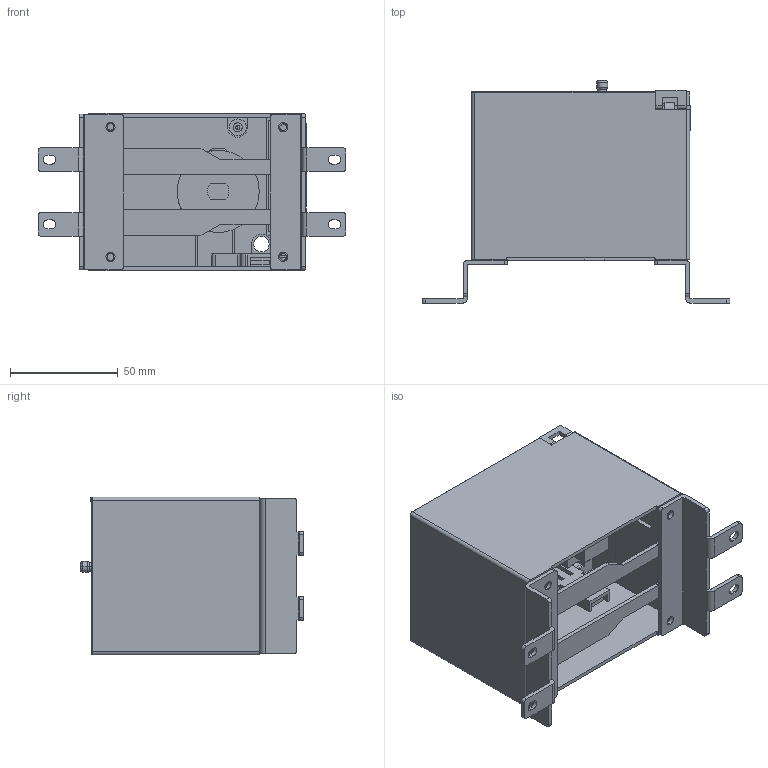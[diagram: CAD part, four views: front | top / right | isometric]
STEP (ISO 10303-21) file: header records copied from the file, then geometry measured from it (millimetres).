
FILE_DESCRIPTION (( 'STEP AP203' ), '1' );
FILE_NAME ('LCD2-125-TGM3E萇紱.STEP', '2026-06-12T00:47:13', ( 'Windows 蚚誧' ), ( 'Microsoft' ), 'SwSTEP 2.0', 'SolidWorks 2022', '' );
FILE_SCHEMA (( 'CONFIG_CONTROL_DESIGN' ));
Length unit declared in the file: millimetre
Products named in the file (12): TGM1N-63軞盓殤; 迕諶偌聽_1; LCD2-125堶TGM3E萇紱綴褐; 萇紱埥啻; LCD2-125-TGM3E萇紱; 芵隴誘欶63萇儂; LCD2-125堶TGM3E萇紱ヶ褐; ÐÂTGM1N-125ZPT; 萇紱TGM1N-125ZPT; 萇紱傷赽; 萇儂63褲极; 伎攫
Assembly tree (11 placements, depth 4):
  LCD2-125-TGM3E萇紱
    萇儂63褲极
    伎攫
    迕諶偌聽_1
    TGM1N-63軞盓殤
    LCD2-125堶TGM3E萇紱ヶ褐
    LCD2-125堶TGM3E萇紱綴褐
    萇紱埥啻
    ÐÂTGM1N-125ZPT
      萇紱TGM1N-125ZPT
        芵隴誘欶63萇儂
      萇紱傷赽
Bounding box: 142.5 x 103.2 x 73 mm (x, y, z)
Volume: 96253.5 mm3; surface area: 108736.6 mm2
Topology: 9 solids, 9 shells, 800 faces, 2262 edges, 1497 vertices
Faces by surface type: plane 536, cylinder 204, bspline 46, cone 8, torus 6
Entity records: 28769 total; most frequent: CARTESIAN_POINT 6658, ORIENTED_EDGE 4524, DIRECTION 4113, EDGE_CURVE 2262, LINE 1625, VECTOR 1625, VERTEX_POINT 1497, AXIS2_PLACEMENT_3D 1244
